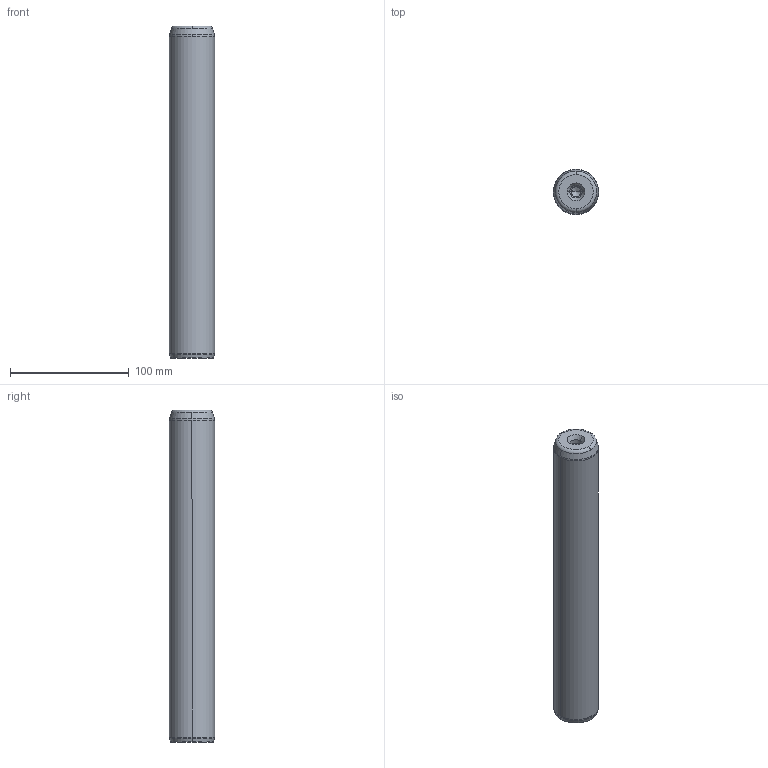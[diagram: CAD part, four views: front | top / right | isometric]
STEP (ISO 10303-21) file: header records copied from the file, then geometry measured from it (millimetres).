
FILE_DESCRIPTION((''),'2;1');
FILE_NAME('P10_038_280.stp','2008-12-23T15:15:33',(''),(''),'Mechanical Desktop 2009','Mechanical Desktop 2009',', , ');
FILE_SCHEMA(('CONFIG_CONTROL_DESIGN'));
Length unit declared in the file: millimetre
Products named in the file (5): Product; ProductAA; blmdl1; ProductA; blmdl1A
Assembly tree (2 placements, depth 3):
  Product
    ProductAA
      blmdl1
  ProductA
  blmdl1A
Bounding box: 38 x 38 x 280 mm (x, y, z)
Volume: 314118.9 mm3; surface area: 36046.9 mm2
Topology: 1 solids, 1 shells, 26 faces, 66 edges, 41 vertices
Faces by surface type: cone 10, torus 8, cylinder 6, plane 2
Entity records: 1012 total; most frequent: DIRECTION 170, CARTESIAN_POINT 134, ORIENTED_EDGE 128, AXIS2_PLACEMENT_3D 77, EDGE_CURVE 64, CIRCLE 48, VERTEX_POINT 41, EDGE_LOOP 27
